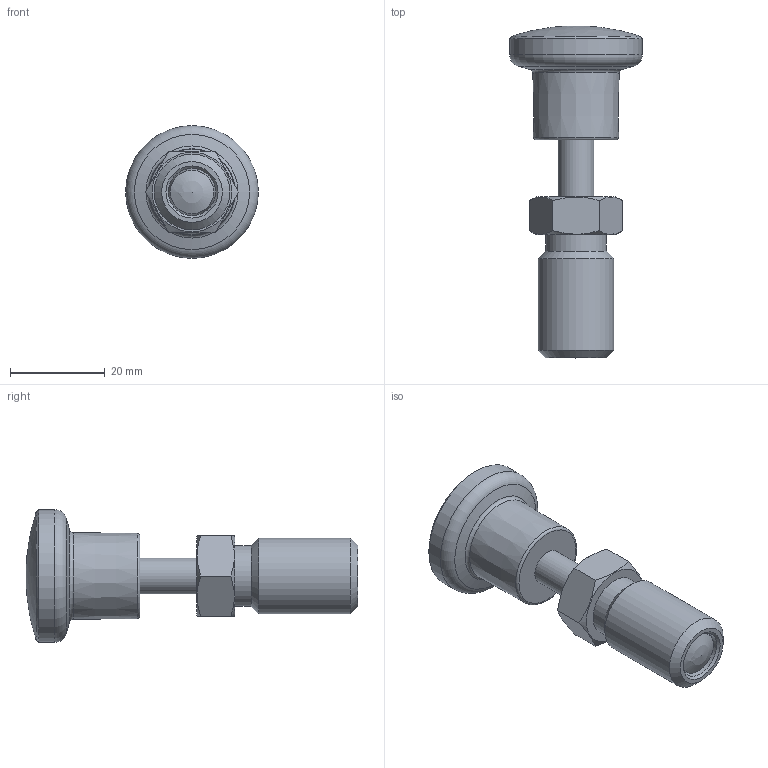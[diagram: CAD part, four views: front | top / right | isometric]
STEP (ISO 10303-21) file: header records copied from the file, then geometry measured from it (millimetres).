
FILE_DESCRIPTION( ( 'STEP AP203' ), '1' );
FILE_NAME( 'C:/Temp/Ganter_Step_05_03_2020/data/3_1/gn817/gn817_ni-rastbolzen_rot/Stainless steel-Indexing plunger GN 817-10-12-B-NI-RT (activated).stp', '2020-03-12T09:00:20', ( 'License CC BY-ND 4.0' ), ( 'CADENAS' ), ' ', 'PARTsolutions', ' ' );
FILE_SCHEMA( ( 'CONFIG_CONTROL_DESIGN' ) );
Length unit declared in the file: millimetre
Products named in the file (4): Stainless steel-Indexing plunger GN 817-10-12-B-NI-RT (activated); _Stainless steel-Indexing plunger GN 817-10-12-B-NI-RT (activated)-d; _Stainless steel-Indexing plunger GN 817-10-12-B-NI-RT-2; _Stainless Steel Indexing plunger GN 817-10-12-B-NI-RT-1
Assembly tree (3 placements, depth 2):
  Stainless steel-Indexing plunger GN 817-10-12-B-NI-RT (activated)
    _Stainless steel-Indexing plunger GN 817-10-12-B-NI-RT (activated)-d
    _Stainless steel-Indexing plunger GN 817-10-12-B-NI-RT-2
    _Stainless Steel Indexing plunger GN 817-10-12-B-NI-RT-1
Bounding box: 28 x 70 x 28 mm (x, y, z)
Volume: 15825.1 mm3; surface area: 7036.3 mm2
Topology: 2 solids, 2 shells, 36 faces, 73 edges, 44 vertices
Faces by surface type: plane 12, cone 10, cylinder 7, torus 5, bspline 1, sphere 1
Full cylindrical faces by diameter (mm): 7.5 x2, 10 x2, 12.8 x1, 16 x1, 28 x1
Entity records: 1058 total; most frequent: CARTESIAN_POINT 280, DIRECTION 140, ORIENTED_EDGE 92, AXIS2_PLACEMENT_3D 67, EDGE_LOOP 64, FACE_OUTER_BOUND 48, EDGE_CURVE 46, VERTEX_POINT 42
